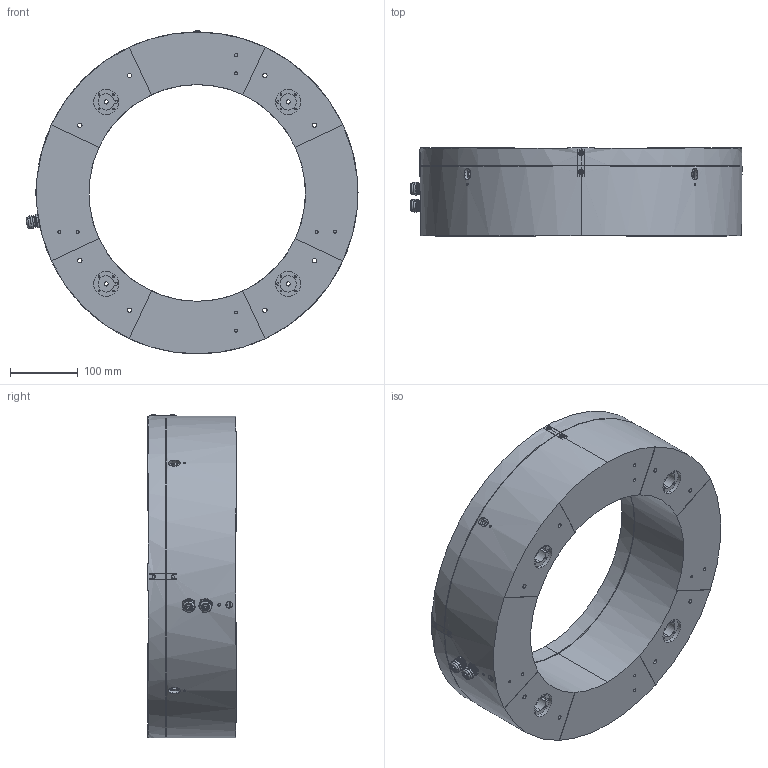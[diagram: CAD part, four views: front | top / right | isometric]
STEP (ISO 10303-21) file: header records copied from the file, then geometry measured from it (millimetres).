
FILE_DESCRIPTION (( 'STEP AP214' ), '1' );
FILE_NAME ('NP5001-002-000-笭婥拻粣.STEP', '2025-05-21T03:23:15', ( '' ), ( '' ), 'SwSTEP 2.0', 'SolidWorks 2023', '' );
FILE_SCHEMA (( 'AUTOMOTIVE_DESIGN' ));
Length unit declared in the file: millimetre
Products named in the file (17): V1压缩弹簧; hexagon socket head cap screws gb_GB_FASTENER_SCREWS_HSHCS M3X8-N; hexagon socket button head screws gb_GB_SOCKET_TYPE7 M4X8-N; NP5001-002-011-压线片; NP5001-002-007-X静基板支撑座; NP5001-002-009-M6-螺母; NP5001-002-001-底座; 3D_Model_upload_ZIL43-M16 (6); NP5001-002-010-发货工装; V1电容传感器陶瓷基板-连接件位置1; NP5001-002-000-重载五轴; NP5001-002-008-X动基板支撑座; NP5001-002-004-工作台; V1电容传感器陶瓷基板; NP5001-002-006-Z动基板支撑座; NP5001-002-005-Z静基板支撑座; M4-10
Assembly tree (43 placements, depth 2):
  NP5001-002-000-重载五轴
    NP5001-002-001-底座
    NP5001-002-004-工作台
    NP5001-002-005-Z静基板支撑座  x4
    V1电容传感器陶瓷基板  x6
    V1压缩弹簧  x4
    M4-10  x4
    NP5001-002-006-Z动基板支撑座  x4
    V1电容传感器陶瓷基板-连接件位置1  x6
    NP5001-002-007-X静基板支撑座  x2
    NP5001-002-008-X动基板支撑座  x2
    hexagon socket head cap screws gb_GB_FASTENER_SCREWS_HSHCS M3X8-N
    NP5001-002-009-M6-螺母
    NP5001-002-010-发货工装  x2
    3D_Model_upload_ZIL43-M16 (6)  x2
    NP5001-002-011-压线片
    hexagon socket button head screws gb_GB_SOCKET_TYPE7 M4X8-N  x2
Bounding box: 490.19 x 130 x 477.7 mm (x, y, z)
Volume: 5081459.3 mm3; surface area: 1159952 mm2
Topology: 41 solids, 55 shells, 2675 faces, 7233 edges, 4687 vertices
Faces by surface type: cylinder 1251, plane 1179, cone 176, bspline 35, sphere 28, torus 6
Entity records: 72483 total; most frequent: CARTESIAN_POINT 19758, DIRECTION 10376, ORIENTED_EDGE 9657, EDGE_CURVE 4888, AXIS2_PLACEMENT_3D 3873, VERTEX_POINT 3237, VECTOR 2630, LINE 2630
